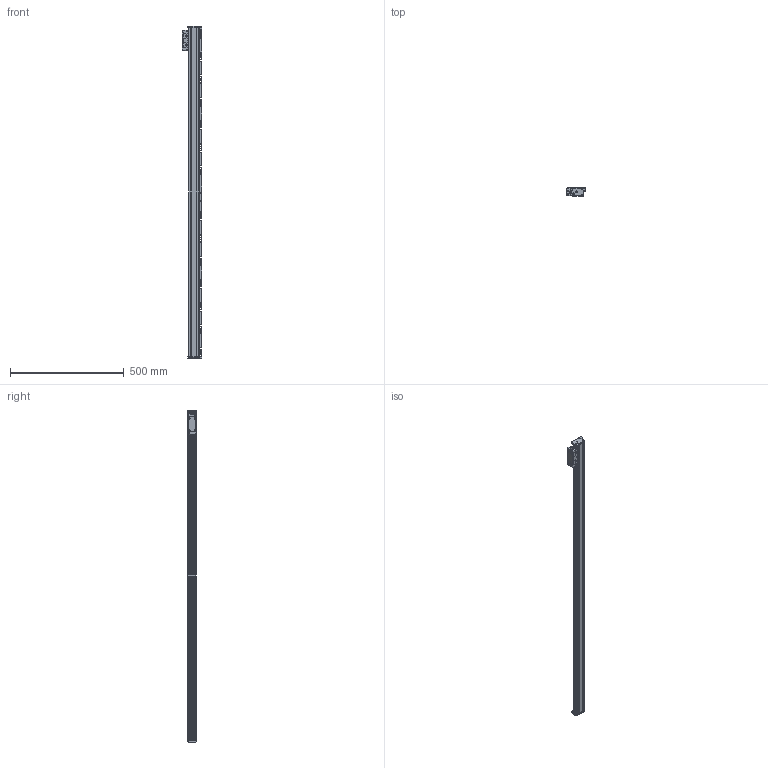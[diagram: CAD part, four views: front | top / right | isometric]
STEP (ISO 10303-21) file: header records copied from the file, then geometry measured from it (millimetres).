
FILE_DESCRIPTION(/* description */ (''),/* implementation_level */ '2;1');
FILE_NAME(/* name */ 'JC21A-1340-1.stp',/* time_stamp */ '2023-12-21T16:40:41+08:00',/* author */ (''),/* organization */ (''),/* preprocessor_version */ 'ST-DEVELOPER v14',/* originating_system */ 'SIEMENS PLM Software NX 8.0',/* authorisation */ '');
FILE_SCHEMA (('CONFIG_CONTROL_DESIGN'));
Length unit declared in the file: millimetre
Products named in the file (1): JC21A-1340-1
Bounding box: 87.5 x 37 x 1461 mm (x, y, z)
Volume: 2310964.6 mm3; surface area: 382694.9 mm2
Topology: 4 solids, 6 shells, 923 faces, 2720 edges, 1807 vertices
Faces by surface type: plane 576, cylinder 315, cone 22, bspline 8, extrusion 2
Full cylindrical faces by diameter (mm): 2.5 x12, 3.3 x6, 3.7 x4, 4.2 x4, 5 x2, 6 x6, 6.6 x2, 6.8 x16, 7 x2, 13.2 x2
Entity records: 31299 total; most frequent: CARTESIAN_POINT 6371, ORIENTED_EDGE 5220, DIRECTION 5154, EDGE_CURVE 2610, VERTEX_POINT 1775, AXIS2_PLACEMENT_3D 1719, VECTOR 1716, LINE 1714
